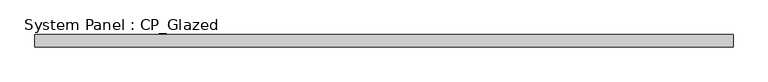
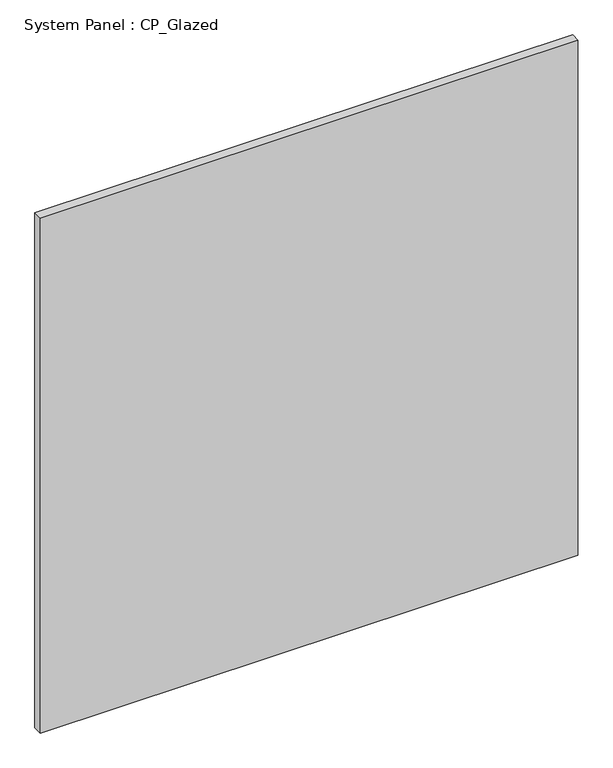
"""IFC4 building model written with IfcOpenShell, lengths in millimetres: plate geometry, System Panel : CP_Glazed."""

from ifc_helpers import new_model, si_unit, origin, origin_with_axes, place, context, project, spatial, polyline, outline, extrude, source, transform, mapped, element, save


def system_panel_cp_glazed_41df1598(model_context):
    return source(origin(), model_context, "Body", "SweptSolid", [
        extrude(outline(polyline([(730.885, -44.45), (-730.885, -44.45), (-730.885, -19.05), (730.885, -19.05), (730.885, -44.45)])), origin_with_axes(), (0.0, 0.0, 1.0), 1479.55),
    ])


if __name__ == "__main__":
    model = new_model("IFC4")
    model_context = context("Model", 3, world=origin())
    ifc_project = project(units=[si_unit("LENGTHUNIT", "METRE", prefix="MILLI")], contexts=[model_context])
    site = spatial("IfcSite", under=ifc_project)
    building = spatial("IfcBuilding", under=site)
    placement = place(None, origin())
    system_panel_cp_glazed_shape = system_panel_cp_glazed_41df1598(model_context)
    element("IfcPlate", 1, ObjectType="System Panel : CP_Glazed", at=placement, inside=building, context=model_context, shape_type="MappedRepresentation", body=[
        mapped(system_panel_cp_glazed_shape, transform((0.0, 0.0, 0.0), x_axis=(1.0, 0.0, 0.0), y_axis=(0.0, 1.0, 0.0), z_axis=(0.0, 0.0, 1.0))),
    ])
    save(model, "model.ifc")
